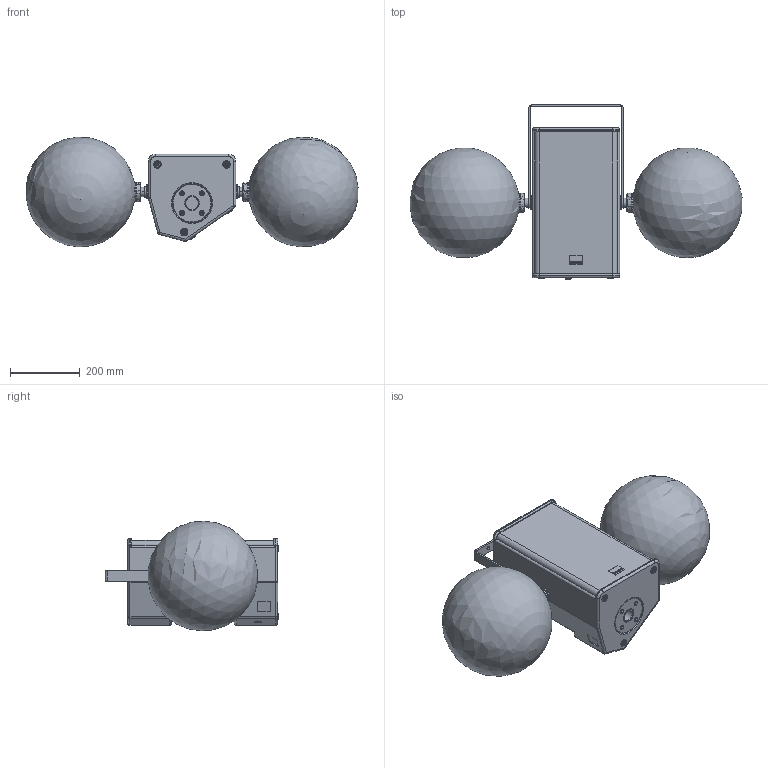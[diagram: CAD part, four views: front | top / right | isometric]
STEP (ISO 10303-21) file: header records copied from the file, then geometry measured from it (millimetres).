
FILE_DESCRIPTION (( 'STEP AP203' ), '1' );
FILE_NAME ('Seeburg_TSM8_Bracket_ver.STEP', '2012-10-17T11:28:35', ( 'Fabian' ), ( '' ), 'SwSTEP 2.0', 'SolidWorks 2009', '' );
FILE_SCHEMA (( 'CONFIG_CONTROL_DESIGN' ));
Length unit declared in the file: millimetre
Products named in the file (2): TSM8_Bracket-ver; Seeburg_TSM8_Bracket_ver
Assembly tree (1 placements, depth 2):
  Seeburg_TSM8_Bracket_ver
    TSM8_Bracket-ver
Bounding box: 950.47 x 498 x 313.96 mm (x, y, z)
Volume: 38195858.1 mm3; surface area: 1737218.1 mm2
Topology: 30 solids, 30 shells, 861 faces, 2092 edges, 1339 vertices
Faces by surface type: cylinder 376, plane 249, cone 123, torus 90, sphere 21, bspline 2
Entity records: 31947 total; most frequent: CARTESIAN_POINT 11223, DIRECTION 4478, ORIENTED_EDGE 4152, EDGE_CURVE 2076, AXIS2_PLACEMENT_3D 1790, VERTEX_POINT 1329, EDGE_LOOP 1019, CIRCLE 927
